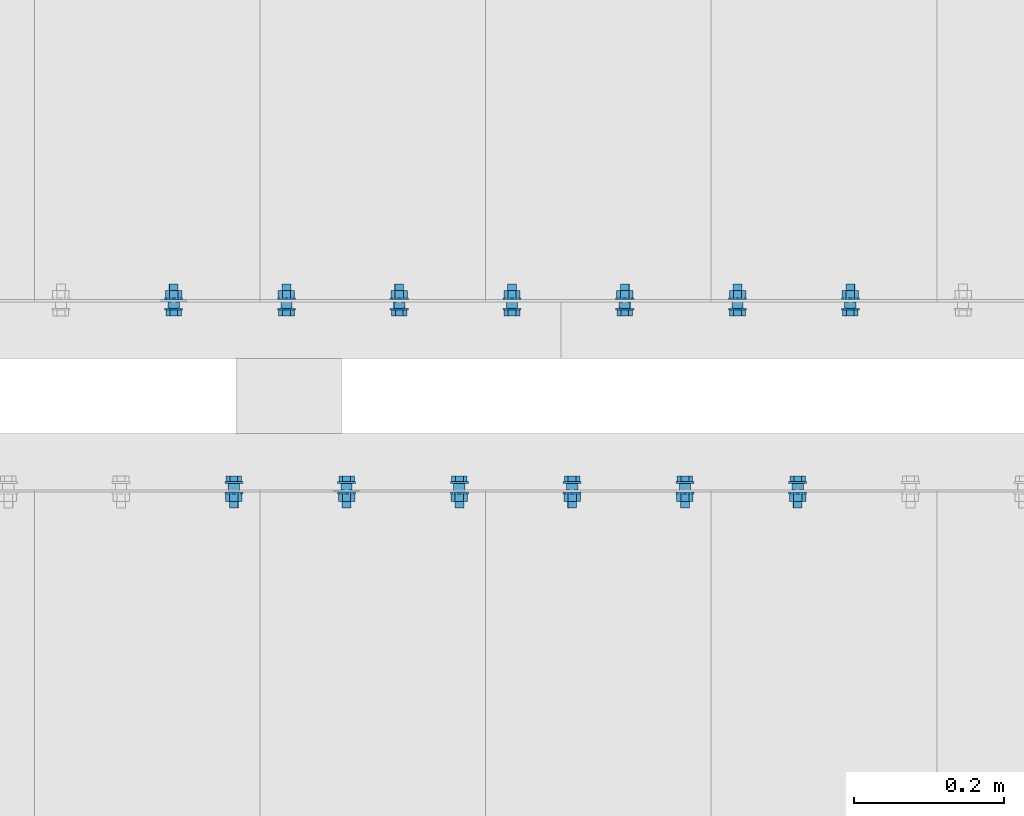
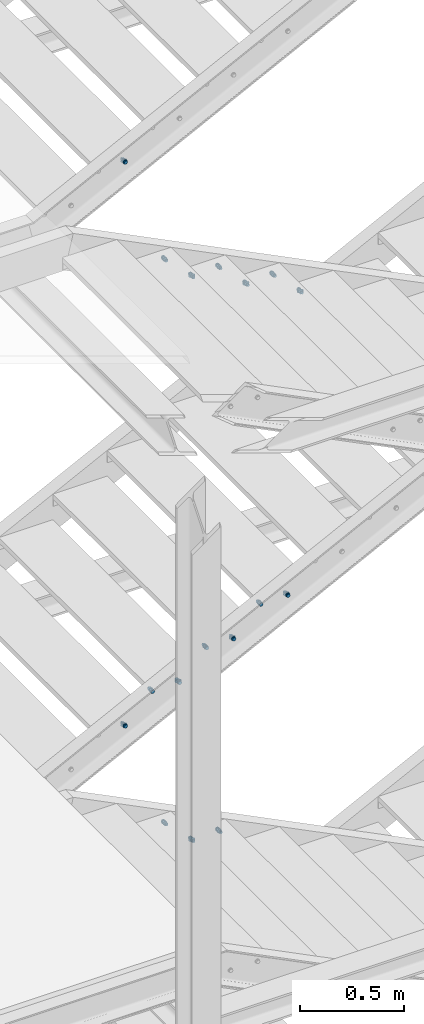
# One storey, part 103 of 132: 17 mechanical fasteners, 11 elements without a shape of their own.
"""IFC2X3 building model written with IfcOpenShell, lengths in millimetres."""

from ifc_helpers import new_model, si_unit, frame, frame_2d, origin_with_axes, origin_2d_with_axis, place, context, subcontext, project, spatial, polyline, circle_curve, parameter, trimmed, segment, composite_curve, circle, outline, extrude, source, transform, mapped, material, type_object, element, aggregate, save


model = new_model("IFC2X3")

# Units and contexts
model_context = context("Model", 3, precision=1e-05, world=origin_with_axes())
body_context = subcontext(model_context, "Body", "Model", "MODEL_VIEW")
ifc_project = project(units=[si_unit("LENGTHUNIT", "METRE", prefix="MILLI"), si_unit("AREAUNIT", "SQUARE_METRE"), si_unit("VOLUMEUNIT", "CUBIC_METRE"), si_unit("MASSUNIT", "GRAM", prefix="KILO"), si_unit("TIMEUNIT", "SECOND"), si_unit("PLANEANGLEUNIT", "RADIAN"), si_unit("SOLIDANGLEUNIT", "STERADIAN"), si_unit("THERMODYNAMICTEMPERATUREUNIT", "DEGREE_CELSIUS"), si_unit("LUMINOUSINTENSITYUNIT", "LUMEN")], contexts=[model_context])

# Site, building, storey
site_placement = place(None, origin_with_axes())
site = spatial("IfcSite", under=ifc_project, at=site_placement, Name="Budowa", CompositionType="ELEMENT")
building_placement = place(site_placement, origin_with_axes())
building = spatial("IfcBuilding", under=site, at=building_placement, Name="Undefined", CompositionType="ELEMENT")
storey_placement = place(building_placement, origin_with_axes())
storey = spatial("IfcBuildingStorey", under=building, at=storey_placement, Name="Undefined", CompositionType="ELEMENT", Elevation=0.0)

# Assembly, mechanical fastener
assembly_1_placement = place(storey_placement, origin_with_axes())
assembly_1 = element("IfcElementAssembly", 1, at=assembly_1_placement, inside=storey, Name="Steel Assembly", AssemblyPlace="NOTDEFINED", PredefinedType="RIGID_FRAME")
ifc_material = material(Name="Undefined")
discrete_accessory_type = type_object("IfcDiscreteAccessoryType", Name="Bolt assembly")
shared_shape_1 = source(origin_with_axes(), body_context, "Body", "SweptSolid", [
    extrude(circle(Radius=7.5, at=origin_2d_with_axis()), frame((0.0, -8.40000000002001, 0.0), z_axis=(0.0, 1.0, 0.0), x_axis=(1.0, 0.0, 0.0)), (0.0, 0.0, 1.0), 8.5),
    extrude(circle(Radius=7.5, at=origin_2d_with_axis()), frame((0.0, -0.1, 0.0), z_axis=(0.0, 1.0, 0.0), x_axis=(1.0, 0.0, 0.0)), (0.0, 0.0, 1.0), 3.1),
    extrude(outline(polyline([(10.39230484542, 0.0), (5.19615242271, 9.00000000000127), (-5.19615242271, 9.00000000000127), (-10.39230484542, 0.0), (-5.19615242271, -9.00000000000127), (5.19615242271, -9.00000000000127), (10.39230484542, 0.0)])), frame((0.0, -18.50000000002, 0.0), z_axis=(0.0, 1.0, 0.0), x_axis=(1.0, 0.0, 0.0)), (0.0, 0.0, 1.0), 7.5),
    extrude(circle(Radius=6.0, at=origin_2d_with_axis()), frame((0.0, -11.00000000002, 0.0), z_axis=(0.0, 1.0, 0.0), x_axis=(1.0, 0.0, 0.0)), (0.0, 0.0, 1.0), 35.0),
    extrude(circle(Radius=12.0, at=origin_2d_with_axis()), frame((0.0, -11.00000000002, 0.0), z_axis=(0.0, 1.0, 0.0), x_axis=(1.0, 0.0, 0.0)), (0.0, 0.0, 1.0), 2.5),
    extrude(circle(Radius=12.0, at=origin_2d_with_axis()), frame((0.0, 3.0, 0.0), z_axis=(0.0, 1.0, 0.0), x_axis=(1.0, 0.0, 0.0)), (0.0, 0.0, 1.0), 2.5),
    extrude(outline(polyline([(10.96965511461, 0.0), (5.484827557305, 9.50000000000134), (-5.484827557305, 9.50000000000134), (-10.96965511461, 0.0), (-5.484827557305, -9.50000000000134), (5.484827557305, -9.50000000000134), (10.96965511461, 0.0)])), frame((0.0, 5.5, 0.0), z_axis=(0.0, 1.0, 0.0), x_axis=(1.0, 0.0, 0.0)), (0.0, 0.0, 1.0), 10.0),
])
mechanical_fastener_1_placement = place(assembly_1_placement, frame((-3820.00000007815, 9275.00000004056, 8750.00000000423), z_axis=(0.0, 0.0, -1.0), x_axis=(1.0, 0.0, 0.0)))
mechanical_fastener_1 = element("IfcMechanicalFastener", 2, at=mechanical_fastener_1_placement, type_object=discrete_accessory_type, material=ifc_material, Name="Bolt assembly", NominalDiameter=12.0, NominalLength=35.0, context=body_context, shape_type="MappedRepresentation", body=[
    mapped(shared_shape_1, transform((265.0, 0.0, 25.0))),
])
aggregate(assembly_1, [mechanical_fastener_1])

assembly_2_placement = place(storey_placement, origin_with_axes())
assembly_2 = element("IfcElementAssembly", 3, at=assembly_2_placement, inside=storey, Name="Steel Assembly", AssemblyPlace="NOTDEFINED", PredefinedType="RIGID_FRAME")
mechanical_fastener_2_placement = place(assembly_2_placement, frame((-3520.00000007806, 9275.00000004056, 8600.00000000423), z_axis=(0.0, 0.0, -1.0), x_axis=(1.0, 0.0, 0.0)))
mechanical_fastener_2 = element("IfcMechanicalFastener", 4, at=mechanical_fastener_2_placement, type_object=discrete_accessory_type, material=ifc_material, Name="Bolt assembly", NominalDiameter=12.0, NominalLength=35.0, context=body_context, shape_type="MappedRepresentation", body=[
    mapped(shared_shape_1, transform((265.0, 0.0, 25.0))),
])

assembly_3_placement = place(storey_placement, origin_with_axes())
assembly_3 = element("IfcElementAssembly", 5, at=assembly_3_placement, inside=storey, Name="Steel Assembly", AssemblyPlace="NOTDEFINED", PredefinedType="RIGID_FRAME")
mechanical_fastener_3_placement = place(assembly_3_placement, frame((-3220.00000007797, 9275.00000004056, 8450.00000000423), z_axis=(0.0, 0.0, -1.0), x_axis=(1.0, 0.0, 0.0)))
mechanical_fastener_3 = element("IfcMechanicalFastener", 6, at=mechanical_fastener_3_placement, type_object=discrete_accessory_type, material=ifc_material, Name="Bolt assembly", NominalDiameter=12.0, NominalLength=35.0, context=body_context, shape_type="MappedRepresentation", body=[
    mapped(shared_shape_1, transform((265.0, 0.0, 25.0))),
])

assembly_4_placement = place(storey_placement, origin_with_axes())
assembly_4 = element("IfcElementAssembly", 7, at=assembly_4_placement, inside=storey, Name="Steel Assembly", AssemblyPlace="NOTDEFINED", PredefinedType="RIGID_FRAME")
mechanical_fastener_4_placement = place(assembly_4_placement, frame((-2620.00000008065, 9525.0000000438, 6349.99999999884), z_axis=(0.0, 0.0, -1.0), x_axis=(-1.0, 0.0, 0.0)))
mechanical_fastener_4 = element("IfcMechanicalFastener", 8, at=mechanical_fastener_4_placement, type_object=discrete_accessory_type, material=ifc_material, Name="Bolt assembly", NominalDiameter=12.0, NominalLength=35.0, context=body_context, shape_type="MappedRepresentation", body=[
    mapped(shared_shape_1, transform((265.0, 0.0, 25.0))),
])

assembly_5_placement = place(storey_placement, origin_with_axes())
assembly_5 = element("IfcElementAssembly", 9, at=assembly_5_placement, inside=storey, Name="Steel Assembly", AssemblyPlace="NOTDEFINED", PredefinedType="RIGID_FRAME")
mechanical_fastener_5_placement = place(assembly_5_placement, frame((-2920.00000008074, 9525.0000000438, 6199.99999999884), z_axis=(0.0, 0.0, -1.0), x_axis=(-1.0, 0.0, 0.0)))
mechanical_fastener_5 = element("IfcMechanicalFastener", 10, at=mechanical_fastener_5_placement, type_object=discrete_accessory_type, material=ifc_material, Name="Bolt assembly", NominalDiameter=12.0, NominalLength=35.0, context=body_context, shape_type="MappedRepresentation", body=[
    mapped(shared_shape_1, transform((265.0, 0.0, 25.0))),
])

assembly_6_placement = place(storey_placement, origin_with_axes())
assembly_6 = element("IfcElementAssembly", 11, at=assembly_6_placement, inside=storey, Name="Steel Assembly", AssemblyPlace="NOTDEFINED", PredefinedType="RIGID_FRAME")
mechanical_fastener_6_placement = place(assembly_6_placement, frame((-3220.00000008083, 9525.0000000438, 6049.99999999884), z_axis=(0.0, 0.0, -1.0), x_axis=(-1.0, 0.0, 0.0)))
mechanical_fastener_6 = element("IfcMechanicalFastener", 12, at=mechanical_fastener_6_placement, type_object=discrete_accessory_type, material=ifc_material, Name="Bolt assembly", NominalDiameter=12.0, NominalLength=35.0, context=body_context, shape_type="MappedRepresentation", body=[
    mapped(shared_shape_1, transform((265.0, 0.0, 25.0))),
])

assembly_7_placement = place(storey_placement, origin_with_axes())
assembly_7 = element("IfcElementAssembly", 13, at=assembly_7_placement, inside=storey, Name="Steel Assembly", AssemblyPlace="NOTDEFINED", PredefinedType="RIGID_FRAME")
mechanical_fastener_7_placement = place(assembly_7_placement, frame((-3820.00000007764, 9275.00000004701, 5449.99999999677), z_axis=(0.0, 0.0, -1.0), x_axis=(1.0, 0.0, 0.0)))
mechanical_fastener_7 = element("IfcMechanicalFastener", 14, at=mechanical_fastener_7_placement, type_object=discrete_accessory_type, material=ifc_material, Name="Bolt assembly", NominalDiameter=12.0, NominalLength=35.0, context=body_context, shape_type="MappedRepresentation", body=[
    mapped(shared_shape_1, transform((265.0, 0.0, 25.0))),
])
aggregate(assembly_7, [mechanical_fastener_7])

assembly_8_placement = place(storey_placement, origin_with_axes())
assembly_8 = element("IfcElementAssembly", 15, at=assembly_8_placement, inside=storey, Name="Steel Assembly", AssemblyPlace="NOTDEFINED", PredefinedType="RIGID_FRAME")
mechanical_fastener_8_placement = place(assembly_8_placement, frame((-3520.00000007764, 9275.00000004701, 5299.99999999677), z_axis=(0.0, 0.0, -1.0), x_axis=(1.0, 0.0, 0.0)))
mechanical_fastener_8 = element("IfcMechanicalFastener", 16, at=mechanical_fastener_8_placement, type_object=discrete_accessory_type, material=ifc_material, Name="Bolt assembly", NominalDiameter=12.0, NominalLength=35.0, context=body_context, shape_type="MappedRepresentation", body=[
    mapped(shared_shape_1, transform((265.0, 0.0, 25.0))),
])

assembly_9_placement = place(storey_placement, origin_with_axes())
assembly_9 = element("IfcElementAssembly", 17, at=assembly_9_placement, inside=storey, Name="Steel Assembly", AssemblyPlace="NOTDEFINED", PredefinedType="RIGID_FRAME")
shared_shape_2 = source(origin_with_axes(), body_context, "Body", "SweptSolid", [
    extrude(circle(Radius=7.5, at=origin_2d_with_axis()), frame((0.0, -8.40000000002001, 0.0), z_axis=(0.0, 1.0, 0.0), x_axis=(1.0, 0.0, 0.0)), (0.0, 0.0, 1.0), 8.5),
    extrude(outline(composite_curve([segment(polyline([(-10.0, 7.5), (10.0, 7.5)]), True, "CONTINUOUS"), segment(trimmed(circle_curve(frame_2d((10.0, 0.0), x_axis=(0.0, 1.0)), 7.5), [parameter(0.0)], [parameter(3.14159265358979)], False, "PARAMETER"), True, "CONTINUOUS"), segment(polyline([(10.0, -7.5), (-10.0, -7.5)]), True, "CONTINUOUS"), segment(trimmed(circle_curve(frame_2d((-10.0, 0.0), x_axis=(0.0, -1.0)), 7.5), [parameter(0.0)], [parameter(3.14159265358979)], False, "PARAMETER"), True, "DISCONTINUOUS")], self_intersect=False)), frame((0.0, -0.1, 0.0), z_axis=(0.0, 1.0, 0.0), x_axis=(1.0, 0.0, 0.0)), (0.0, 0.0, 1.0), 3.1),
    extrude(outline(polyline([(10.39230484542, 0.0), (5.19615242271, 9.00000000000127), (-5.19615242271, 9.00000000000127), (-10.39230484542, 0.0), (-5.19615242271, -9.00000000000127), (5.19615242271, -9.00000000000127), (10.39230484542, 0.0)])), frame((0.0, -18.50000000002, 0.0), z_axis=(0.0, 1.0, 0.0), x_axis=(1.0, 0.0, 0.0)), (0.0, 0.0, 1.0), 7.5),
    extrude(circle(Radius=6.0, at=origin_2d_with_axis()), frame((0.0, -11.00000000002, 0.0), z_axis=(0.0, 1.0, 0.0), x_axis=(1.0, 0.0, 0.0)), (0.0, 0.0, 1.0), 35.0),
    extrude(circle(Radius=12.0, at=origin_2d_with_axis()), frame((0.0, -11.00000000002, 0.0), z_axis=(0.0, 1.0, 0.0), x_axis=(1.0, 0.0, 0.0)), (0.0, 0.0, 1.0), 2.5),
    extrude(circle(Radius=12.0, at=origin_2d_with_axis()), frame((0.0, 3.0, 0.0), z_axis=(0.0, 1.0, 0.0), x_axis=(1.0, 0.0, 0.0)), (0.0, 0.0, 1.0), 2.5),
    extrude(outline(polyline([(10.96965511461, 0.0), (5.484827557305, 9.50000000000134), (-5.484827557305, 9.50000000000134), (-10.96965511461, 0.0), (-5.484827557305, -9.50000000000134), (5.484827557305, -9.50000000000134), (10.96965511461, 0.0)])), frame((0.0, 5.5, 0.0), z_axis=(0.0, 1.0, 0.0), x_axis=(1.0, 0.0, 0.0)), (0.0, 0.0, 1.0), 10.0),
])
mechanical_fastener_9_placement = place(assembly_9_placement, frame((-3520.00000008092, 9525.0000000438, 9199.99999999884), z_axis=(0.0, 0.0, -1.0), x_axis=(-1.0, 0.0, 0.0)))
mechanical_fastener_9 = element("IfcMechanicalFastener", 18, at=mechanical_fastener_9_placement, type_object=discrete_accessory_type, material=ifc_material, Name="Bolt assembly", NominalDiameter=12.0, NominalLength=35.0, context=body_context, shape_type="MappedRepresentation", body=[
    mapped(shared_shape_2, transform((115.0, 0.0, 25.0))),
])
aggregate(assembly_9, [mechanical_fastener_9])

# Mechanical fastener
shared_shape_3 = source(origin_with_axes(), body_context, "Body", "SweptSolid", [
    extrude(circle(Radius=7.5, at=origin_2d_with_axis()), frame((0.0, -8.40000000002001, 0.0), z_axis=(0.0, 1.0, 0.0), x_axis=(1.0, 0.0, 0.0)), (0.0, 0.0, 1.0), 8.5),
    extrude(outline(composite_curve([segment(polyline([(-10.0, 7.5), (10.0, 7.5)]), True, "CONTINUOUS"), segment(trimmed(circle_curve(frame_2d((10.0, 0.0), x_axis=(0.0, 1.0)), 7.5), [parameter(0.0)], [parameter(3.14159265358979)], False, "PARAMETER"), True, "CONTINUOUS"), segment(polyline([(10.0, -7.5), (-10.0, -7.5)]), True, "CONTINUOUS"), segment(trimmed(circle_curve(frame_2d((-10.0, 0.0), x_axis=(0.0, -1.0)), 7.5), [parameter(0.0)], [parameter(3.14159265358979)], False, "PARAMETER"), True, "DISCONTINUOUS")], self_intersect=False)), frame((0.0, -0.1, 0.0), z_axis=(0.0, 1.0, 0.0), x_axis=(1.0, 0.0, 0.0)), (0.0, 0.0, 1.0), 3.1),
    extrude(outline(polyline([(10.39230484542, 0.0), (5.19615242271, 9.00000000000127), (-5.19615242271, 9.00000000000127), (-10.39230484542, 0.0), (-5.19615242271, -9.00000000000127), (5.19615242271, -9.00000000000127), (10.39230484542, 0.0)])), frame((0.0, -18.50000000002, 0.0), z_axis=(0.0, 1.0, 0.0), x_axis=(1.0, 0.0, 0.0)), (0.0, 0.0, 1.0), 7.5),
    extrude(circle(Radius=6.0, at=origin_2d_with_axis()), frame((0.0, -11.00000000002, 0.0), z_axis=(0.0, 1.0, 0.0), x_axis=(1.0, 0.0, 0.0)), (0.0, 0.0, 1.0), 35.0),
    extrude(circle(Radius=12.0, at=origin_2d_with_axis()), frame((0.0, -11.00000000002, 0.0), z_axis=(0.0, 1.0, 0.0), x_axis=(1.0, 0.0, 0.0)), (0.0, 0.0, 1.0), 2.5),
    extrude(circle(Radius=12.0, at=origin_2d_with_axis()), frame((0.0, 3.0, 0.0), z_axis=(0.0, 1.0, 0.0), x_axis=(1.0, 0.0, 0.0)), (0.0, 0.0, 1.0), 2.5),
    extrude(outline(polyline([(10.96965511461, 0.0), (5.484827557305, 9.50000000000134), (-5.484827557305, 9.50000000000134), (-10.96965511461, 0.0), (-5.484827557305, -9.50000000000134), (5.484827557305, -9.50000000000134), (10.96965511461, 0.0)])), frame((0.0, 5.5, 0.0), z_axis=(0.0, 1.0, 0.0), x_axis=(1.0, 0.0, 0.0)), (0.0, 0.0, 1.0), 10.0),
])
mechanical_fastener_10_placement = place(assembly_2_placement, frame((-3520.00000007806, 9275.00000004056, 8600.00000000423), z_axis=(0.0, 0.0, -1.0), x_axis=(1.0, 0.0, 0.0)))
mechanical_fastener_10 = element("IfcMechanicalFastener", 19, at=mechanical_fastener_10_placement, type_object=discrete_accessory_type, material=ifc_material, Name="Bolt assembly", NominalDiameter=12.0, NominalLength=35.0, context=body_context, shape_type="MappedRepresentation", body=[
    mapped(shared_shape_3, transform((115.0, 0.0, 25.0))),
])

aggregate(assembly_2, [mechanical_fastener_10, mechanical_fastener_2])

shared_shape_4 = source(origin_with_axes(), body_context, "Body", "SweptSolid", [
    extrude(circle(Radius=7.5, at=origin_2d_with_axis()), frame((0.0, -8.40000000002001, 0.0), z_axis=(0.0, 1.0, 0.0), x_axis=(1.0, 0.0, 0.0)), (0.0, 0.0, 1.0), 8.5),
    extrude(outline(composite_curve([segment(polyline([(-10.0, 7.5), (10.0, 7.5)]), True, "CONTINUOUS"), segment(trimmed(circle_curve(frame_2d((10.0, 0.0), x_axis=(0.0, 1.0)), 7.5), [parameter(0.0)], [parameter(3.14159265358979)], False, "PARAMETER"), True, "CONTINUOUS"), segment(polyline([(10.0, -7.5), (-10.0, -7.5)]), True, "CONTINUOUS"), segment(trimmed(circle_curve(frame_2d((-10.0, 0.0), x_axis=(0.0, -1.0)), 7.5), [parameter(0.0)], [parameter(3.14159265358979)], False, "PARAMETER"), True, "DISCONTINUOUS")], self_intersect=False)), frame((0.0, -0.1, 0.0), z_axis=(0.0, 1.0, 0.0), x_axis=(1.0, 0.0, 0.0)), (0.0, 0.0, 1.0), 3.1),
    extrude(outline(polyline([(10.39230484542, 0.0), (5.19615242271, 9.00000000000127), (-5.19615242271, 9.00000000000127), (-10.39230484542, 0.0), (-5.19615242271, -9.00000000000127), (5.19615242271, -9.00000000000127), (10.39230484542, 0.0)])), frame((0.0, -18.50000000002, 0.0), z_axis=(0.0, 1.0, 0.0), x_axis=(1.0, 0.0, 0.0)), (0.0, 0.0, 1.0), 7.5),
    extrude(circle(Radius=6.0, at=origin_2d_with_axis()), frame((0.0, -11.00000000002, 0.0), z_axis=(0.0, 1.0, 0.0), x_axis=(1.0, 0.0, 0.0)), (0.0, 0.0, 1.0), 35.0),
    extrude(circle(Radius=12.0, at=origin_2d_with_axis()), frame((0.0, -11.00000000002, 0.0), z_axis=(0.0, 1.0, 0.0), x_axis=(1.0, 0.0, 0.0)), (0.0, 0.0, 1.0), 2.5),
    extrude(circle(Radius=12.0, at=origin_2d_with_axis()), frame((0.0, 3.0, 0.0), z_axis=(0.0, 1.0, 0.0), x_axis=(1.0, 0.0, 0.0)), (0.0, 0.0, 1.0), 2.5),
    extrude(outline(polyline([(10.96965511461, 0.0), (5.484827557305, 9.50000000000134), (-5.484827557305, 9.50000000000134), (-10.96965511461, 0.0), (-5.484827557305, -9.50000000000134), (5.484827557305, -9.50000000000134), (10.96965511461, 0.0)])), frame((0.0, 5.5, 0.0), z_axis=(0.0, 1.0, 0.0), x_axis=(1.0, 0.0, 0.0)), (0.0, 0.0, 1.0), 10.0),
])
mechanical_fastener_11_placement = place(assembly_3_placement, frame((-3220.00000007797, 9275.00000004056, 8450.00000000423), z_axis=(0.0, 0.0, -1.0), x_axis=(1.0, 0.0, 0.0)))
mechanical_fastener_11 = element("IfcMechanicalFastener", 20, at=mechanical_fastener_11_placement, type_object=discrete_accessory_type, material=ifc_material, Name="Bolt assembly", NominalDiameter=12.0, NominalLength=35.0, context=body_context, shape_type="MappedRepresentation", body=[
    mapped(shared_shape_4, transform((115.0, 0.0, 25.0))),
])

aggregate(assembly_3, [mechanical_fastener_11, mechanical_fastener_3])

# Assembly, mechanical fastener
assembly_10_placement = place(storey_placement, origin_with_axes())
assembly_10 = element("IfcElementAssembly", 21, at=assembly_10_placement, inside=storey, Name="Steel Assembly", AssemblyPlace="NOTDEFINED", PredefinedType="RIGID_FRAME")
shared_shape_5 = source(origin_with_axes(), body_context, "Body", "SweptSolid", [
    extrude(circle(Radius=7.5, at=origin_2d_with_axis()), frame((0.0, -8.40000000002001, 0.0), z_axis=(0.0, 1.0, 0.0), x_axis=(1.0, 0.0, 0.0)), (0.0, 0.0, 1.0), 8.5),
    extrude(outline(composite_curve([segment(polyline([(-10.0, 7.5), (10.0, 7.5)]), True, "CONTINUOUS"), segment(trimmed(circle_curve(frame_2d((10.0, 0.0), x_axis=(0.0, 1.0)), 7.5), [parameter(0.0)], [parameter(3.14159265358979)], False, "PARAMETER"), True, "CONTINUOUS"), segment(polyline([(10.0, -7.5), (-10.0, -7.5)]), True, "CONTINUOUS"), segment(trimmed(circle_curve(frame_2d((-10.0, 0.0), x_axis=(0.0, -1.0)), 7.5), [parameter(0.0)], [parameter(3.14159265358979)], False, "PARAMETER"), True, "DISCONTINUOUS")], self_intersect=False)), frame((0.0, -0.1, 0.0), z_axis=(0.0, 1.0, 0.0), x_axis=(1.0, 0.0, 0.0)), (0.0, 0.0, 1.0), 3.1),
    extrude(outline(polyline([(10.39230484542, 0.0), (5.19615242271, 9.00000000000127), (-5.19615242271, 9.00000000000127), (-10.39230484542, 0.0), (-5.19615242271, -9.00000000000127), (5.19615242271, -9.00000000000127), (10.39230484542, 0.0)])), frame((0.0, -18.50000000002, 0.0), z_axis=(0.0, 1.0, 0.0), x_axis=(1.0, 0.0, 0.0)), (0.0, 0.0, 1.0), 7.5),
    extrude(circle(Radius=6.0, at=origin_2d_with_axis()), frame((0.0, -11.00000000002, 0.0), z_axis=(0.0, 1.0, 0.0), x_axis=(1.0, 0.0, 0.0)), (0.0, 0.0, 1.0), 35.0),
    extrude(circle(Radius=12.0, at=origin_2d_with_axis()), frame((0.0, -11.00000000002, 0.0), z_axis=(0.0, 1.0, 0.0), x_axis=(1.0, 0.0, 0.0)), (0.0, 0.0, 1.0), 2.5),
    extrude(circle(Radius=12.0, at=origin_2d_with_axis()), frame((0.0, 3.0, 0.0), z_axis=(0.0, 1.0, 0.0), x_axis=(1.0, 0.0, 0.0)), (0.0, 0.0, 1.0), 2.5),
    extrude(outline(polyline([(10.96965511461, 0.0), (5.484827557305, 9.50000000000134), (-5.484827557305, 9.50000000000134), (-10.96965511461, 0.0), (-5.484827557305, -9.50000000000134), (5.484827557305, -9.50000000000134), (10.96965511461, 0.0)])), frame((0.0, 5.5, 0.0), z_axis=(0.0, 1.0, 0.0), x_axis=(1.0, 0.0, 0.0)), (0.0, 0.0, 1.0), 10.0),
])
mechanical_fastener_12_placement = place(assembly_10_placement, frame((-2920.00000007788, 9275.00000004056, 8300.00000000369), z_axis=(0.0, 0.0, -1.0), x_axis=(1.0, 0.0, 0.0)))
mechanical_fastener_12 = element("IfcMechanicalFastener", 22, at=mechanical_fastener_12_placement, type_object=discrete_accessory_type, material=ifc_material, Name="Bolt assembly", NominalDiameter=12.0, NominalLength=35.0, context=body_context, shape_type="MappedRepresentation", body=[
    mapped(shared_shape_5, transform((115.0, 0.0, 25.0))),
])
aggregate(assembly_10, [mechanical_fastener_12])

# Mechanical fastener
shared_shape_6 = source(origin_with_axes(), body_context, "Body", "SweptSolid", [
    extrude(circle(Radius=7.5, at=origin_2d_with_axis()), frame((0.0, -8.40000000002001, 0.0), z_axis=(0.0, 1.0, 0.0), x_axis=(1.0, 0.0, 0.0)), (0.0, 0.0, 1.0), 8.5),
    extrude(outline(composite_curve([segment(polyline([(-10.0, 7.5), (10.0, 7.5)]), True, "CONTINUOUS"), segment(trimmed(circle_curve(frame_2d((10.0, 0.0), x_axis=(0.0, 1.0)), 7.5), [parameter(0.0)], [parameter(3.14159265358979)], False, "PARAMETER"), True, "CONTINUOUS"), segment(polyline([(10.0, -7.5), (-10.0, -7.5)]), True, "CONTINUOUS"), segment(trimmed(circle_curve(frame_2d((-10.0, 0.0), x_axis=(0.0, -1.0)), 7.5), [parameter(0.0)], [parameter(3.14159265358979)], False, "PARAMETER"), True, "DISCONTINUOUS")], self_intersect=False)), frame((0.0, -0.1, 0.0), z_axis=(0.0, 1.0, 0.0), x_axis=(1.0, 0.0, 0.0)), (0.0, 0.0, 1.0), 3.1),
    extrude(outline(polyline([(10.39230484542, 0.0), (5.19615242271, 9.00000000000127), (-5.19615242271, 9.00000000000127), (-10.39230484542, 0.0), (-5.19615242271, -9.00000000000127), (5.19615242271, -9.00000000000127), (10.39230484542, 0.0)])), frame((0.0, -18.50000000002, 0.0), z_axis=(0.0, 1.0, 0.0), x_axis=(1.0, 0.0, 0.0)), (0.0, 0.0, 1.0), 7.5),
    extrude(circle(Radius=6.0, at=origin_2d_with_axis()), frame((0.0, -11.00000000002, 0.0), z_axis=(0.0, 1.0, 0.0), x_axis=(1.0, 0.0, 0.0)), (0.0, 0.0, 1.0), 35.0),
    extrude(circle(Radius=12.0, at=origin_2d_with_axis()), frame((0.0, -11.00000000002, 0.0), z_axis=(0.0, 1.0, 0.0), x_axis=(1.0, 0.0, 0.0)), (0.0, 0.0, 1.0), 2.5),
    extrude(circle(Radius=12.0, at=origin_2d_with_axis()), frame((0.0, 3.0, 0.0), z_axis=(0.0, 1.0, 0.0), x_axis=(1.0, 0.0, 0.0)), (0.0, 0.0, 1.0), 2.5),
    extrude(outline(polyline([(10.96965511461, 0.0), (5.484827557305, 9.50000000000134), (-5.484827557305, 9.50000000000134), (-10.96965511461, 0.0), (-5.484827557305, -9.50000000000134), (5.484827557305, -9.50000000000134), (10.96965511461, 0.0)])), frame((0.0, 5.5, 0.0), z_axis=(0.0, 1.0, 0.0), x_axis=(1.0, 0.0, 0.0)), (0.0, 0.0, 1.0), 10.0),
])
mechanical_fastener_13_placement = place(assembly_4_placement, frame((-2620.00000008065, 9525.0000000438, 6349.99999999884), z_axis=(0.0, 0.0, -1.0), x_axis=(-1.0, 0.0, 0.0)))
mechanical_fastener_13 = element("IfcMechanicalFastener", 23, at=mechanical_fastener_13_placement, type_object=discrete_accessory_type, material=ifc_material, Name="Bolt assembly", NominalDiameter=12.0, NominalLength=35.0, context=body_context, shape_type="MappedRepresentation", body=[
    mapped(shared_shape_6, transform((115.0, 0.0, 25.0))),
])

aggregate(assembly_4, [mechanical_fastener_13, mechanical_fastener_4])

shared_shape_7 = source(origin_with_axes(), body_context, "Body", "SweptSolid", [
    extrude(circle(Radius=7.5, at=origin_2d_with_axis()), frame((0.0, -8.40000000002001, 0.0), z_axis=(0.0, 1.0, 0.0), x_axis=(1.0, 0.0, 0.0)), (0.0, 0.0, 1.0), 8.5),
    extrude(outline(composite_curve([segment(polyline([(-10.0, 7.5), (10.0, 7.5)]), True, "CONTINUOUS"), segment(trimmed(circle_curve(frame_2d((10.0, 0.0), x_axis=(0.0, 1.0)), 7.5), [parameter(0.0)], [parameter(3.14159265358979)], False, "PARAMETER"), True, "CONTINUOUS"), segment(polyline([(10.0, -7.5), (-10.0, -7.5)]), True, "CONTINUOUS"), segment(trimmed(circle_curve(frame_2d((-10.0, 0.0), x_axis=(0.0, -1.0)), 7.5), [parameter(0.0)], [parameter(3.14159265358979)], False, "PARAMETER"), True, "DISCONTINUOUS")], self_intersect=False)), frame((0.0, -0.1, 0.0), z_axis=(0.0, 1.0, 0.0), x_axis=(1.0, 0.0, 0.0)), (0.0, 0.0, 1.0), 3.1),
    extrude(outline(polyline([(10.39230484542, 0.0), (5.19615242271, 9.00000000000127), (-5.19615242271, 9.00000000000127), (-10.39230484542, 0.0), (-5.19615242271, -9.00000000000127), (5.19615242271, -9.00000000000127), (10.39230484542, 0.0)])), frame((0.0, -18.50000000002, 0.0), z_axis=(0.0, 1.0, 0.0), x_axis=(1.0, 0.0, 0.0)), (0.0, 0.0, 1.0), 7.5),
    extrude(circle(Radius=6.0, at=origin_2d_with_axis()), frame((0.0, -11.00000000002, 0.0), z_axis=(0.0, 1.0, 0.0), x_axis=(1.0, 0.0, 0.0)), (0.0, 0.0, 1.0), 35.0),
    extrude(circle(Radius=12.0, at=origin_2d_with_axis()), frame((0.0, -11.00000000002, 0.0), z_axis=(0.0, 1.0, 0.0), x_axis=(1.0, 0.0, 0.0)), (0.0, 0.0, 1.0), 2.5),
    extrude(circle(Radius=12.0, at=origin_2d_with_axis()), frame((0.0, 3.0, 0.0), z_axis=(0.0, 1.0, 0.0), x_axis=(1.0, 0.0, 0.0)), (0.0, 0.0, 1.0), 2.5),
    extrude(outline(polyline([(10.96965511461, 0.0), (5.484827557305, 9.50000000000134), (-5.484827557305, 9.50000000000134), (-10.96965511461, 0.0), (-5.484827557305, -9.50000000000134), (5.484827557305, -9.50000000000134), (10.96965511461, 0.0)])), frame((0.0, 5.5, 0.0), z_axis=(0.0, 1.0, 0.0), x_axis=(1.0, 0.0, 0.0)), (0.0, 0.0, 1.0), 10.0),
])
mechanical_fastener_14_placement = place(assembly_5_placement, frame((-2920.00000008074, 9525.0000000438, 6199.99999999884), z_axis=(0.0, 0.0, -1.0), x_axis=(-1.0, 0.0, 0.0)))
mechanical_fastener_14 = element("IfcMechanicalFastener", 24, at=mechanical_fastener_14_placement, type_object=discrete_accessory_type, material=ifc_material, Name="Bolt assembly", NominalDiameter=12.0, NominalLength=35.0, context=body_context, shape_type="MappedRepresentation", body=[
    mapped(shared_shape_7, transform((115.0, 0.0, 25.0))),
])

aggregate(assembly_5, [mechanical_fastener_14, mechanical_fastener_5])

shared_shape_8 = source(origin_with_axes(), body_context, "Body", "SweptSolid", [
    extrude(circle(Radius=7.5, at=origin_2d_with_axis()), frame((0.0, -8.40000000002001, 0.0), z_axis=(0.0, 1.0, 0.0), x_axis=(1.0, 0.0, 0.0)), (0.0, 0.0, 1.0), 8.5),
    extrude(outline(composite_curve([segment(polyline([(-10.0, 7.5), (10.0, 7.5)]), True, "CONTINUOUS"), segment(trimmed(circle_curve(frame_2d((10.0, 0.0), x_axis=(0.0, 1.0)), 7.5), [parameter(0.0)], [parameter(3.14159265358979)], False, "PARAMETER"), True, "CONTINUOUS"), segment(polyline([(10.0, -7.5), (-10.0, -7.5)]), True, "CONTINUOUS"), segment(trimmed(circle_curve(frame_2d((-10.0, 0.0), x_axis=(0.0, -1.0)), 7.5), [parameter(0.0)], [parameter(3.14159265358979)], False, "PARAMETER"), True, "DISCONTINUOUS")], self_intersect=False)), frame((0.0, -0.1, 0.0), z_axis=(0.0, 1.0, 0.0), x_axis=(1.0, 0.0, 0.0)), (0.0, 0.0, 1.0), 3.1),
    extrude(outline(polyline([(10.39230484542, 0.0), (5.19615242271, 9.00000000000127), (-5.19615242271, 9.00000000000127), (-10.39230484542, 0.0), (-5.19615242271, -9.00000000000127), (5.19615242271, -9.00000000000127), (10.39230484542, 0.0)])), frame((0.0, -18.50000000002, 0.0), z_axis=(0.0, 1.0, 0.0), x_axis=(1.0, 0.0, 0.0)), (0.0, 0.0, 1.0), 7.5),
    extrude(circle(Radius=6.0, at=origin_2d_with_axis()), frame((0.0, -11.00000000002, 0.0), z_axis=(0.0, 1.0, 0.0), x_axis=(1.0, 0.0, 0.0)), (0.0, 0.0, 1.0), 35.0),
    extrude(circle(Radius=12.0, at=origin_2d_with_axis()), frame((0.0, -11.00000000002, 0.0), z_axis=(0.0, 1.0, 0.0), x_axis=(1.0, 0.0, 0.0)), (0.0, 0.0, 1.0), 2.5),
    extrude(circle(Radius=12.0, at=origin_2d_with_axis()), frame((0.0, 3.0, 0.0), z_axis=(0.0, 1.0, 0.0), x_axis=(1.0, 0.0, 0.0)), (0.0, 0.0, 1.0), 2.5),
    extrude(outline(polyline([(10.96965511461, 0.0), (5.484827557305, 9.50000000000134), (-5.484827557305, 9.50000000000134), (-10.96965511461, 0.0), (-5.484827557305, -9.50000000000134), (5.484827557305, -9.50000000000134), (10.96965511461, 0.0)])), frame((0.0, 5.5, 0.0), z_axis=(0.0, 1.0, 0.0), x_axis=(1.0, 0.0, 0.0)), (0.0, 0.0, 1.0), 10.0),
])
mechanical_fastener_15_placement = place(assembly_6_placement, frame((-3220.00000008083, 9525.0000000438, 6049.99999999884), z_axis=(0.0, 0.0, -1.0), x_axis=(-1.0, 0.0, 0.0)))
mechanical_fastener_15 = element("IfcMechanicalFastener", 25, at=mechanical_fastener_15_placement, type_object=discrete_accessory_type, material=ifc_material, Name="Bolt assembly", NominalDiameter=12.0, NominalLength=35.0, context=body_context, shape_type="MappedRepresentation", body=[
    mapped(shared_shape_8, transform((115.0, 0.0, 25.0))),
])

aggregate(assembly_6, [mechanical_fastener_15, mechanical_fastener_6])

# Assembly, mechanical fastener
assembly_11_placement = place(storey_placement, origin_with_axes())
assembly_11 = element("IfcElementAssembly", 26, at=assembly_11_placement, inside=storey, Name="Steel Assembly", AssemblyPlace="NOTDEFINED", PredefinedType="RIGID_FRAME")
shared_shape_9 = source(origin_with_axes(), body_context, "Body", "SweptSolid", [
    extrude(circle(Radius=7.5, at=origin_2d_with_axis()), frame((0.0, -8.40000000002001, 0.0), z_axis=(0.0, 1.0, 0.0), x_axis=(1.0, 0.0, 0.0)), (0.0, 0.0, 1.0), 8.5),
    extrude(outline(composite_curve([segment(polyline([(-10.0, 7.5), (10.0, 7.5)]), True, "CONTINUOUS"), segment(trimmed(circle_curve(frame_2d((10.0, 0.0), x_axis=(0.0, 1.0)), 7.5), [parameter(0.0)], [parameter(3.14159265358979)], False, "PARAMETER"), True, "CONTINUOUS"), segment(polyline([(10.0, -7.5), (-10.0, -7.5)]), True, "CONTINUOUS"), segment(trimmed(circle_curve(frame_2d((-10.0, 0.0), x_axis=(0.0, -1.0)), 7.5), [parameter(0.0)], [parameter(3.14159265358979)], False, "PARAMETER"), True, "DISCONTINUOUS")], self_intersect=False)), frame((0.0, -0.1, 0.0), z_axis=(0.0, 1.0, 0.0), x_axis=(1.0, 0.0, 0.0)), (0.0, 0.0, 1.0), 3.1),
    extrude(outline(polyline([(10.39230484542, 0.0), (5.19615242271, 9.00000000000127), (-5.19615242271, 9.00000000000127), (-10.39230484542, 0.0), (-5.19615242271, -9.00000000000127), (5.19615242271, -9.00000000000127), (10.39230484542, 0.0)])), frame((0.0, -18.50000000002, 0.0), z_axis=(0.0, 1.0, 0.0), x_axis=(1.0, 0.0, 0.0)), (0.0, 0.0, 1.0), 7.5),
    extrude(circle(Radius=6.0, at=origin_2d_with_axis()), frame((0.0, -11.00000000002, 0.0), z_axis=(0.0, 1.0, 0.0), x_axis=(1.0, 0.0, 0.0)), (0.0, 0.0, 1.0), 35.0),
    extrude(circle(Radius=12.0, at=origin_2d_with_axis()), frame((0.0, -11.00000000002, 0.0), z_axis=(0.0, 1.0, 0.0), x_axis=(1.0, 0.0, 0.0)), (0.0, 0.0, 1.0), 2.5),
    extrude(circle(Radius=12.0, at=origin_2d_with_axis()), frame((0.0, 3.0, 0.0), z_axis=(0.0, 1.0, 0.0), x_axis=(1.0, 0.0, 0.0)), (0.0, 0.0, 1.0), 2.5),
    extrude(outline(polyline([(10.96965511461, 0.0), (5.484827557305, 9.50000000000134), (-5.484827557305, 9.50000000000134), (-10.96965511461, 0.0), (-5.484827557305, -9.50000000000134), (5.484827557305, -9.50000000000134), (10.96965511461, 0.0)])), frame((0.0, 5.5, 0.0), z_axis=(0.0, 1.0, 0.0), x_axis=(1.0, 0.0, 0.0)), (0.0, 0.0, 1.0), 10.0),
])
mechanical_fastener_16_placement = place(assembly_11_placement, frame((-3520.00000008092, 9525.0000000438, 5899.99999999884), z_axis=(0.0, 0.0, -1.0), x_axis=(-1.0, 0.0, 0.0)))
mechanical_fastener_16 = element("IfcMechanicalFastener", 27, at=mechanical_fastener_16_placement, type_object=discrete_accessory_type, material=ifc_material, Name="Bolt assembly", NominalDiameter=12.0, NominalLength=35.0, context=body_context, shape_type="MappedRepresentation", body=[
    mapped(shared_shape_9, transform((115.0, 0.0, 25.0))),
])
aggregate(assembly_11, [mechanical_fastener_16])

# Mechanical fastener
shared_shape_10 = source(origin_with_axes(), body_context, "Body", "SweptSolid", [
    extrude(circle(Radius=7.5, at=origin_2d_with_axis()), frame((0.0, -8.40000000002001, 0.0), z_axis=(0.0, 1.0, 0.0), x_axis=(1.0, 0.0, 0.0)), (0.0, 0.0, 1.0), 8.5),
    extrude(outline(composite_curve([segment(polyline([(-10.0, 7.5), (10.0, 7.5)]), True, "CONTINUOUS"), segment(trimmed(circle_curve(frame_2d((10.0, 0.0), x_axis=(0.0, 1.0)), 7.5), [parameter(0.0)], [parameter(3.14159265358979)], False, "PARAMETER"), True, "CONTINUOUS"), segment(polyline([(10.0, -7.5), (-10.0, -7.5)]), True, "CONTINUOUS"), segment(trimmed(circle_curve(frame_2d((-10.0, 0.0), x_axis=(0.0, -1.0)), 7.5), [parameter(0.0)], [parameter(3.14159265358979)], False, "PARAMETER"), True, "DISCONTINUOUS")], self_intersect=False)), frame((0.0, -0.1, 0.0), z_axis=(0.0, 1.0, 0.0), x_axis=(1.0, 0.0, 0.0)), (0.0, 0.0, 1.0), 3.1),
    extrude(outline(polyline([(10.39230484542, 0.0), (5.19615242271, 9.00000000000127), (-5.19615242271, 9.00000000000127), (-10.39230484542, 0.0), (-5.19615242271, -9.00000000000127), (5.19615242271, -9.00000000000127), (10.39230484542, 0.0)])), frame((0.0, -18.50000000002, 0.0), z_axis=(0.0, 1.0, 0.0), x_axis=(1.0, 0.0, 0.0)), (0.0, 0.0, 1.0), 7.5),
    extrude(circle(Radius=6.0, at=origin_2d_with_axis()), frame((0.0, -11.00000000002, 0.0), z_axis=(0.0, 1.0, 0.0), x_axis=(1.0, 0.0, 0.0)), (0.0, 0.0, 1.0), 35.0),
    extrude(circle(Radius=12.0, at=origin_2d_with_axis()), frame((0.0, -11.00000000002, 0.0), z_axis=(0.0, 1.0, 0.0), x_axis=(1.0, 0.0, 0.0)), (0.0, 0.0, 1.0), 2.5),
    extrude(circle(Radius=12.0, at=origin_2d_with_axis()), frame((0.0, 3.0, 0.0), z_axis=(0.0, 1.0, 0.0), x_axis=(1.0, 0.0, 0.0)), (0.0, 0.0, 1.0), 2.5),
    extrude(outline(polyline([(10.96965511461, 0.0), (5.484827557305, 9.50000000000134), (-5.484827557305, 9.50000000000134), (-10.96965511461, 0.0), (-5.484827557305, -9.50000000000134), (5.484827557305, -9.50000000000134), (10.96965511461, 0.0)])), frame((0.0, 5.5, 0.0), z_axis=(0.0, 1.0, 0.0), x_axis=(1.0, 0.0, 0.0)), (0.0, 0.0, 1.0), 10.0),
])
mechanical_fastener_17_placement = place(assembly_8_placement, frame((-3520.00000007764, 9275.00000004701, 5299.99999999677), z_axis=(0.0, 0.0, -1.0), x_axis=(1.0, 0.0, 0.0)))
mechanical_fastener_17 = element("IfcMechanicalFastener", 28, at=mechanical_fastener_17_placement, type_object=discrete_accessory_type, material=ifc_material, Name="Bolt assembly", NominalDiameter=12.0, NominalLength=35.0, context=body_context, shape_type="MappedRepresentation", body=[
    mapped(shared_shape_10, transform((115.0, 0.0, 25.0))),
])

aggregate(assembly_8, [mechanical_fastener_17, mechanical_fastener_8])

save(model, "model.ifc")
